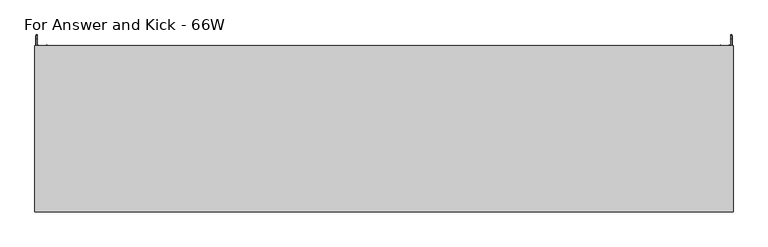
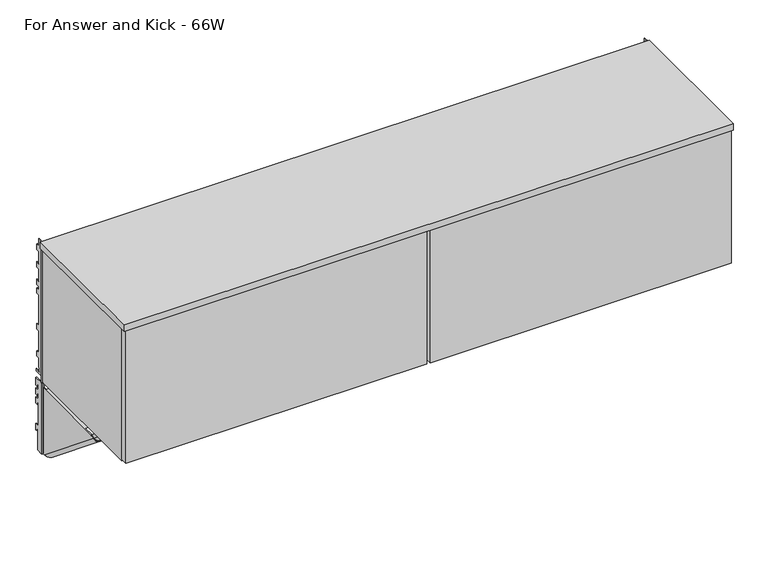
"""IFC4 building model written with IfcOpenShell, lengths in millimetres: furniture geometry, Steelcase - Universal Storage - In the Case Bin - Flat Front : For Answer and Kick - 66W."""

from ifc_helpers import new_model, si_unit, point, frame, frame_2d, origin, place, context, project, spatial, polyline, circle_curve, ellipse_curve, trimmed, segment, composite_curve, outline, extrude, faceted_brep, source, transform, mapped, element, save
from ifc_brep_helpers import plane_surface, cylinder_surface, revolved_surface, advanced_brep


def for_answer_and_kick_66w_c85725a8(model_context):
    return source(origin(), model_context, "Body", "SolidModel", [
        advanced_brep(
        [(4.0894, 24.9864881, 1247.9655), (4.0894, 1.1327479, 1247.9655), (4.0894, 1.1203386, 1040.9809), (4.0894, 17.3410881, 1040.9809), (4.0894, 17.3410881, 1101.1280822), (4.0894, 21.4050888, 1101.1280822), (4.0894, 21.4050888, 1094.7781064), (4.0894, 24.9864881, 1094.7781064), (4.0894, 24.9864881, 1113.0407271), (4.0894, 14.7756879, 1113.0407271), (4.0894, 14.7756879, 1179.6141345), (4.0894, 18.8396885, 1179.6141345), (4.0894, 18.8396885, 1173.264086), (4.0894, 24.9864881, 1173.264086), (4.0894, 24.9864881, 1191.5267068), (4.0894, 14.7756879, 1191.5267068), (4.0894, 14.7756879, 1205.7761277), (4.0894, 18.8396885, 1205.7761277), (4.0894, 18.8396885, 1199.4260793), (4.0894, 24.9864881, 1199.4260793), (4.0894, 24.9864881, 1217.6887), (4.0894, 14.7756879, 1217.6887), (4.0894, 14.7756879, 1231.9381209), (4.0894, 18.8396885, 1231.9381209), (4.0894, 18.8396885, 1225.5880725), (4.0894, 24.9864881, 1225.5880725), (2.1844, 24.9864881, 1247.9655), (2.1844, 24.9864881, 1225.5880725), (2.1844, 18.8396885, 1225.5880725), (2.1844, 18.8396885, 1231.9381209), (2.1844, 14.7756879, 1231.9381209), (2.1844, 14.7756879, 1217.6887), (2.1844, 24.9864881, 1217.6887), (2.1844, 24.9864881, 1199.4260793), (2.1844, 18.8396885, 1199.4260793), (2.1844, 18.8396885, 1205.7761277), (2.1844, 14.7756879, 1205.7761277), (2.1844, 14.7756879, 1191.5267068), (2.1844, 24.9864881, 1191.5267068), (2.1844, 24.9864881, 1173.264086), (2.1844, 18.8396885, 1173.264086), (2.1844, 18.8396885, 1179.6141345), (2.1844, 14.7756879, 1179.6141345), (2.1844, 14.7756879, 1113.0407271), (2.1844, 24.9864881, 1113.0407271), (2.1844, 24.9864881, 1094.7781064), (2.1844, 21.4050888, 1094.7781064), (2.1844, 21.4050888, 1101.1280822), (2.1844, 17.3410881, 1101.1280822), (2.1844, 17.3410881, 1040.9809), (2.1844, -0.7757522, 1040.9809), (2.1844, -0.7757522, 1247.9655), (4.4891598, -3.080512, 1247.9655), (8.1026, -3.080512, 1247.9655), (8.1026, -1.7838863, 1247.9655), (7.4942256, -1.175512, 1247.9655), (6.3852506, -1.175512, 1247.9655), (6.3852506, -1.175512, 1040.9809), (7.4942256, -1.175512, 1040.9809), (8.1026, -1.7838863, 1040.9809), (8.1026, -3.080512, 1040.9809), (4.4891598, -3.080512, 1040.9809)],
        [
            (0, 1),
            (1, 2),
            (2, 3),
            (3, 4),
            (4, 5),
            (5, 6),
            (6, 7),
            (7, 8),
            (8, 9),
            (9, 10),
            (10, 11),
            (11, 12),
            (12, 13),
            (13, 14),
            (14, 15),
            (15, 16),
            (16, 17),
            (17, 18),
            (18, 19),
            (19, 20),
            (20, 21),
            (21, 22),
            (22, 23),
            (23, 24),
            (24, 25),
            (25, 0),
            (26, 27),
            (27, 28),
            (28, 29),
            (29, 30),
            (30, 31),
            (31, 32),
            (32, 33),
            (33, 34),
            (34, 35),
            (35, 36),
            (36, 37),
            (37, 38),
            (38, 39),
            (39, 40),
            (40, 41),
            (41, 42),
            (42, 43),
            (43, 44),
            (44, 45),
            (45, 46),
            (46, 47),
            (47, 48),
            (48, 49),
            (49, 50),
            (50, 51),
            (51, 26),
            (0, 26),
            (51, 52, circle_curve(frame((4.4891598, -0.7757522, 1247.9655), z_axis=(0.0, 0.0, 1.0), x_axis=(1.0, 0.0, 0.0)), 2.3047598)),
            (52, 53),
            (53, 54),
            (54, 55, circle_curve(frame((7.4942256, -1.7838863, 1247.9655), z_axis=(0.0, 0.0, 1.0), x_axis=(1.0, 0.0, 0.0)), 0.6083744)),
            (55, 56),
            (56, 1, circle_curve(frame((6.3852506, 1.1203386, 1247.9655), z_axis=(0.0, 0.0, -1.0), x_axis=(1.0, 0.0, 0.0)), 2.2958506)),
            (2, 57, circle_curve(frame((6.3852506, 1.1203386, 1040.9809), z_axis=(0.0, 0.0, 1.0), x_axis=(1.0, 0.0, 0.0)), 2.2958506)),
            (57, 58),
            (58, 59, circle_curve(frame((7.4942256, -1.7838863, 1040.9809), z_axis=(0.0, 0.0, -1.0), x_axis=(1.0, 0.0, 0.0)), 0.6083744)),
            (59, 60),
            (60, 61),
            (61, 50, circle_curve(frame((4.4891598, -0.7757522, 1040.9809), z_axis=(0.0, 0.0, -1.0), x_axis=(1.0, 0.0, 0.0)), 2.3047598)),
            (49, 3),
            (48, 4),
            (47, 5),
            (46, 6),
            (45, 7),
            (44, 8),
            (43, 9),
            (42, 10),
            (41, 11),
            (40, 12),
            (39, 13),
            (38, 14),
            (37, 15),
            (36, 16),
            (35, 17),
            (34, 18),
            (33, 19),
            (32, 20),
            (31, 21),
            (30, 22),
            (29, 23),
            (28, 24),
            (27, 25),
            (61, 52),
            (60, 53),
            (59, 54),
            (58, 55),
            (57, 56),
        ],
        [
            plane_surface(frame((4.0894, 1.241405, 1247.9655), z_axis=(1.0, 0.0, 0.0), x_axis=(0.0, -1.0, 0.0))),
            plane_surface(frame((2.1844, 1.241405, 1247.9655), z_axis=(-1.0, 0.0, 0.0), x_axis=(0.0, 1.0, 0.0))),
            plane_surface(frame((4.0894, 24.9864881, 1247.9655), z_axis=(0.0, 0.0, 1.0), x_axis=(-1.0, 0.0, 0.0))),
            plane_surface(frame((4.0894, 1.1327479, 1040.9809), z_axis=(0.0, 0.0, -1.0), x_axis=(-1.0, 0.0, 0.0))),
            plane_surface(frame((4.0894, 17.3410881, 1040.9809), z_axis=(0.0, 1.0, 0.0), x_axis=(-1.0, 0.0, 0.0))),
            plane_surface(frame((4.0894, 17.3410881, 1101.1280822), z_axis=(0.0, 0.0, -1.0), x_axis=(-1.0, 0.0, 0.0))),
            plane_surface(frame((4.0894, 21.4050888, 1101.1280822), z_axis=(0.0, -1.0, 0.0), x_axis=(-1.0, 0.0, 0.0))),
            plane_surface(frame((4.0894, 21.4050888, 1094.7781064), z_axis=(0.0, 0.0, -1.0), x_axis=(-1.0, 0.0, 0.0))),
            plane_surface(frame((4.0894, 24.9864881, 1094.7781064), z_axis=(0.0, 1.0, 0.0), x_axis=(-1.0, 0.0, 0.0))),
            plane_surface(frame((4.0894, 24.9864881, 1113.0407271), z_axis=(0.0, 0.0, 1.0), x_axis=(-1.0, 0.0, 0.0))),
            plane_surface(frame((4.0894, 14.7756879, 1113.0407271), z_axis=(0.0, 1.0, 0.0), x_axis=(-1.0, 0.0, 0.0))),
            plane_surface(frame((4.0894, 14.7756879, 1179.6141345), z_axis=(0.0, 0.0, -1.0), x_axis=(-1.0, 0.0, 0.0))),
            plane_surface(frame((4.0894, 18.8396885, 1179.6141345), z_axis=(0.0, -1.0, 0.0), x_axis=(-1.0, 0.0, 0.0))),
            plane_surface(frame((4.0894, 18.8396885, 1173.264086), z_axis=(0.0, 0.0, -1.0), x_axis=(-1.0, 0.0, 0.0))),
            plane_surface(frame((4.0894, 24.9864881, 1173.264086), z_axis=(0.0, 1.0, 0.0), x_axis=(-1.0, 0.0, 0.0))),
            plane_surface(frame((4.0894, 24.9864881, 1191.5267068), z_axis=(0.0, 0.0, 1.0), x_axis=(-1.0, 0.0, 0.0))),
            plane_surface(frame((4.0894, 14.7756879, 1191.5267068), z_axis=(0.0, 1.0, 0.0), x_axis=(-1.0, 0.0, 0.0))),
            plane_surface(frame((4.0894, 14.7756879, 1205.7761277), z_axis=(0.0, 0.0, -1.0), x_axis=(-1.0, 0.0, 0.0))),
            plane_surface(frame((4.0894, 18.8396885, 1205.7761277), z_axis=(0.0, -1.0, 0.0), x_axis=(-1.0, 0.0, 0.0))),
            plane_surface(frame((4.0894, 18.8396885, 1199.4260793), z_axis=(0.0, 0.0, -1.0), x_axis=(-1.0, 0.0, 0.0))),
            plane_surface(frame((4.0894, 24.9864881, 1199.4260793), z_axis=(0.0, 1.0, 0.0), x_axis=(-1.0, 0.0, 0.0))),
            plane_surface(frame((4.0894, 24.9864881, 1217.6887), z_axis=(0.0, 0.0, 1.0), x_axis=(-1.0, 0.0, 0.0))),
            plane_surface(frame((4.0894, 14.7756879, 1217.6887), z_axis=(0.0, 1.0, 0.0), x_axis=(-1.0, 0.0, 0.0))),
            plane_surface(frame((4.0894, 14.7756879, 1231.9381209), z_axis=(0.0, 0.0, -1.0), x_axis=(-1.0, 0.0, 0.0))),
            plane_surface(frame((4.0894, 18.8396885, 1231.9381209), z_axis=(0.0, -1.0, 0.0), x_axis=(-1.0, 0.0, 0.0))),
            plane_surface(frame((4.0894, 18.8396885, 1225.5880725), z_axis=(0.0, 0.0, -1.0), x_axis=(-1.0, 0.0, 0.0))),
            plane_surface(frame((4.0894, 24.9864881, 1225.5880725), z_axis=(0.0, 1.0, 0.0), x_axis=(-1.0, 0.0, 0.0))),
            cylinder_surface(frame((4.4891598, -0.7757522, 1040.9809), z_axis=(0.0, 0.0, 1.0), x_axis=(1.0, 0.0, 0.0)), 2.3047598),
            plane_surface(frame((4.4891598, -3.080512, 1247.9655), z_axis=(0.0, -1.0, 0.0), x_axis=(0.0, 0.0, -1.0))),
            plane_surface(frame((8.1026, -3.080512, 1247.9655), z_axis=(1.0, 0.0, 0.0), x_axis=(0.0, 0.0, -1.0))),
            cylinder_surface(frame((7.4942256, -1.7838863, 1040.9809), z_axis=(0.0, 0.0, 1.0), x_axis=(1.0, 0.0, 0.0)), 0.6083744),
            plane_surface(frame((7.4942256, -1.175512, 1247.9655), z_axis=(0.0, 1.0, 0.0), x_axis=(0.0, 0.0, -1.0))),
            revolved_surface(polyline([(8.6811012, 1.1203386, 1040.9809), (8.6811012, 1.1203386, 1247.9655)]), (6.3852506, 1.1203386, 1040.9809), (0.0, 0.0, -1.0)),
        ],
        [
            (0, [[1, 2, 3, 4, 5, 6, 7, 8, 9, 10, 11, 12, 13, 14, 15, 16, 17, 18, 19, 20, 21, 22, 23, 24, 25, 26]]),
            (1, [[27, 28, 29, 30, 31, 32, 33, 34, 35, 36, 37, 38, 39, 40, 41, 42, 43, 44, 45, 46, 47, 48, 49, 50, 51, 52]]),
            (2, [[-1, 53, -52, 54, 55, 56, 57, 58, 59]]),
            (3, [[-3, 60, 61, 62, 63, 64, 65, -50, 66]]),
            (4, [[-4, -66, -49, 67]]),
            (5, [[-5, -67, -48, 68]]),
            (6, [[-6, -68, -47, 69]]),
            (7, [[-7, -69, -46, 70]]),
            (8, [[-8, -70, -45, 71]]),
            (9, [[-9, -71, -44, 72]]),
            (10, [[-10, -72, -43, 73]]),
            (11, [[-11, -73, -42, 74]]),
            (12, [[-12, -74, -41, 75]]),
            (13, [[-13, -75, -40, 76]]),
            (14, [[-14, -76, -39, 77]]),
            (15, [[-15, -77, -38, 78]]),
            (16, [[-16, -78, -37, 79]]),
            (17, [[-17, -79, -36, 80]]),
            (18, [[-18, -80, -35, 81]]),
            (19, [[-19, -81, -34, 82]]),
            (20, [[-20, -82, -33, 83]]),
            (21, [[-21, -83, -32, 84]]),
            (22, [[-22, -84, -31, 85]]),
            (23, [[-23, -85, -30, 86]]),
            (24, [[-24, -86, -29, 87]]),
            (25, [[-25, -87, -28, 88]]),
            (26, [[-26, -88, -27, -53]]),
            (27, [[-54, -51, -65, 89]]),
            (28, [[-55, -89, -64, 90]]),
            (29, [[-56, -90, -63, 91]]),
            (30, [[-57, -91, -62, 92]]),
            (31, [[-58, -92, -61, 93]]),
            (32, [[-59, -93, -60, -2]]),
        ],
    ),
        advanced_brep(
        [(1672.3106, 24.9864881, 1247.9655), (1672.3106, 24.9864881, 1225.5880725), (1672.3106, 18.8396885, 1225.5880725), (1672.3106, 18.8396885, 1231.9381209), (1672.3106, 14.7756879, 1231.9381209), (1672.3106, 14.7756879, 1217.6887), (1672.3106, 24.9864881, 1217.6887), (1672.3106, 24.9864881, 1199.4260793), (1672.3106, 18.8396885, 1199.4260793), (1672.3106, 18.8396885, 1205.7761277), (1672.3106, 14.7756879, 1205.7761277), (1672.3106, 14.7756879, 1191.5267068), (1672.3106, 24.9864881, 1191.5267068), (1672.3106, 24.9864881, 1173.264086), (1672.3106, 18.8396885, 1173.264086), (1672.3106, 18.8396885, 1179.6141345), (1672.3106, 14.7756879, 1179.6141345), (1672.3106, 14.7756879, 1113.0407271), (1672.3106, 24.9864881, 1113.0407271), (1672.3106, 24.9864881, 1094.7781064), (1672.3106, 21.4050888, 1094.7781064), (1672.3106, 21.4050888, 1101.1280822), (1672.3106, 17.3410881, 1101.1280822), (1672.3106, 17.3410881, 1040.9809), (1672.3106, 1.1327479, 1040.9809), (1672.3106, 1.1203386, 1247.9655), (1674.2156, -0.7757522, 1247.9655), (1674.2156, -0.7757522, 1040.9809), (1674.2156, 17.3410881, 1040.9809), (1674.2156, 17.3410881, 1101.1280822), (1674.2156, 21.4050888, 1101.1280822), (1674.2156, 21.4050888, 1094.7781064), (1674.2156, 24.9864881, 1094.7781064), (1674.2156, 24.9864881, 1113.0407271), (1674.2156, 14.7756879, 1113.0407271), (1674.2156, 14.7756879, 1179.6141345), (1674.2156, 18.8396885, 1179.6141345), (1674.2156, 18.8396885, 1173.264086), (1674.2156, 24.9864881, 1173.264086), (1674.2156, 24.9864881, 1191.5267068), (1674.2156, 14.7756879, 1191.5267068), (1674.2156, 14.7756879, 1205.7761277), (1674.2156, 18.8396885, 1205.7761277), (1674.2156, 18.8396885, 1199.4260793), (1674.2156, 24.9864881, 1199.4260793), (1674.2156, 24.9864881, 1217.6887), (1674.2156, 14.7756879, 1217.6887), (1674.2156, 14.7756879, 1231.9381209), (1674.2156, 18.8396885, 1231.9381209), (1674.2156, 18.8396885, 1225.5880725), (1674.2156, 24.9864881, 1225.5880725), (1674.2156, 24.9864881, 1247.9655), (1671.9108402, -3.080512, 1040.9809), (1668.5006, -3.080512, 1040.9809), (1668.5006, -1.7838863, 1040.9809), (1669.1089744, -1.175512, 1040.9809), (1670.0147494, -1.175512, 1040.9809), (1670.0147494, -1.175512, 1247.9655), (1669.1089744, -1.175512, 1247.9655), (1668.5006, -1.7838863, 1247.9655), (1668.5006, -3.080512, 1247.9655), (1671.9108402, -3.080512, 1247.9655)],
        [
            (0, 1),
            (1, 2),
            (2, 3),
            (3, 4),
            (4, 5),
            (5, 6),
            (6, 7),
            (7, 8),
            (8, 9),
            (9, 10),
            (10, 11),
            (11, 12),
            (12, 13),
            (13, 14),
            (14, 15),
            (15, 16),
            (16, 17),
            (17, 18),
            (18, 19),
            (19, 20),
            (20, 21),
            (21, 22),
            (22, 23),
            (23, 24),
            (24, 25),
            (25, 0),
            (26, 27),
            (27, 28),
            (28, 29),
            (29, 30),
            (30, 31),
            (31, 32),
            (32, 33),
            (33, 34),
            (34, 35),
            (35, 36),
            (36, 37),
            (37, 38),
            (38, 39),
            (39, 40),
            (40, 41),
            (41, 42),
            (42, 43),
            (43, 44),
            (44, 45),
            (45, 46),
            (46, 47),
            (47, 48),
            (48, 49),
            (49, 50),
            (50, 51),
            (51, 26),
            (0, 51),
            (50, 1),
            (49, 2),
            (48, 3),
            (47, 4),
            (46, 5),
            (45, 6),
            (44, 7),
            (43, 8),
            (42, 9),
            (41, 10),
            (40, 11),
            (39, 12),
            (38, 13),
            (37, 14),
            (36, 15),
            (35, 16),
            (34, 17),
            (33, 18),
            (32, 19),
            (31, 20),
            (30, 21),
            (29, 22),
            (28, 23),
            (27, 52, circle_curve(frame((1671.9108402, -0.7757522, 1040.9809), z_axis=(0.0, 0.0, -1.0), x_axis=(0.0, 1.0, 0.0)), 2.3047598)),
            (52, 53),
            (53, 54),
            (54, 55, circle_curve(frame((1669.1089744, -1.7838863, 1040.9809), z_axis=(0.0, 0.0, -1.0), x_axis=(0.0, 1.0, 0.0)), 0.6083744)),
            (55, 56),
            (56, 24, circle_curve(frame((1670.0147494, 1.1203386, 1040.9809), z_axis=(0.0, 0.0, 1.0), x_axis=(0.0, 1.0, 0.0)), 2.2958506)),
            (25, 57, circle_curve(frame((1670.0147494, 1.1203386, 1247.9655), z_axis=(0.0, 0.0, -1.0), x_axis=(0.0, 1.0, 0.0)), 2.2958506)),
            (57, 58),
            (58, 59, circle_curve(frame((1669.1089744, -1.7838863, 1247.9655), z_axis=(0.0, 0.0, 1.0), x_axis=(0.0, 1.0, 0.0)), 0.6083744)),
            (59, 60),
            (60, 61),
            (61, 26, circle_curve(frame((1671.9108402, -0.7757522, 1247.9655), z_axis=(0.0, 0.0, 1.0), x_axis=(0.0, 1.0, 0.0)), 2.3047598)),
            (56, 57),
            (55, 58),
            (54, 59),
            (53, 60),
            (52, 61),
        ],
        [
            plane_surface(frame((1672.3106, 24.9864881, 1247.9655), z_axis=(-1.0, 0.0, 0.0), x_axis=(0.0, 0.0, -1.0))),
            plane_surface(frame((1674.2156, 24.9864881, 1247.9655), z_axis=(1.0, 0.0, 0.0), x_axis=(0.0, 0.0, 1.0))),
            plane_surface(frame((1672.3106, 24.9864881, 1247.9655), z_axis=(0.0, 1.0, 0.0), x_axis=(1.0, 0.0, 0.0))),
            plane_surface(frame((1672.3106, 24.9864881, 1225.5880725), z_axis=(0.0, 0.0, -1.0), x_axis=(1.0, 0.0, 0.0))),
            plane_surface(frame((1672.3106, 18.8396885, 1225.5880725), z_axis=(0.0, -1.0, 0.0), x_axis=(1.0, 0.0, 0.0))),
            plane_surface(frame((1672.3106, 18.8396885, 1231.9381209), z_axis=(0.0, 0.0, -1.0), x_axis=(1.0, 0.0, 0.0))),
            plane_surface(frame((1672.3106, 14.7756879, 1231.9381209), z_axis=(0.0, 1.0, 0.0), x_axis=(1.0, 0.0, 0.0))),
            plane_surface(frame((1672.3106, 14.7756879, 1217.6887), z_axis=(0.0, 0.0, 1.0), x_axis=(1.0, 0.0, 0.0))),
            plane_surface(frame((1672.3106, 24.9864881, 1217.6887), z_axis=(0.0, 1.0, 0.0), x_axis=(1.0, 0.0, 0.0))),
            plane_surface(frame((1672.3106, 24.9864881, 1199.4260793), z_axis=(0.0, 0.0, -1.0), x_axis=(1.0, 0.0, 0.0))),
            plane_surface(frame((1672.3106, 18.8396885, 1199.4260793), z_axis=(0.0, -1.0, 0.0), x_axis=(1.0, 0.0, 0.0))),
            plane_surface(frame((1672.3106, 18.8396885, 1205.7761277), z_axis=(0.0, 0.0, -1.0), x_axis=(1.0, 0.0, 0.0))),
            plane_surface(frame((1672.3106, 14.7756879, 1205.7761277), z_axis=(0.0, 1.0, 0.0), x_axis=(1.0, 0.0, 0.0))),
            plane_surface(frame((1672.3106, 14.7756879, 1191.5267068), z_axis=(0.0, 0.0, 1.0), x_axis=(1.0, 0.0, 0.0))),
            plane_surface(frame((1672.3106, 24.9864881, 1191.5267068), z_axis=(0.0, 1.0, 0.0), x_axis=(1.0, 0.0, 0.0))),
            plane_surface(frame((1672.3106, 24.9864881, 1173.264086), z_axis=(0.0, 0.0, -1.0), x_axis=(1.0, 0.0, 0.0))),
            plane_surface(frame((1672.3106, 18.8396885, 1173.264086), z_axis=(0.0, -1.0, 0.0), x_axis=(1.0, 0.0, 0.0))),
            plane_surface(frame((1672.3106, 18.8396885, 1179.6141345), z_axis=(0.0, 0.0, -1.0), x_axis=(1.0, 0.0, 0.0))),
            plane_surface(frame((1672.3106, 14.7756879, 1179.6141345), z_axis=(0.0, 1.0, 0.0), x_axis=(1.0, 0.0, 0.0))),
            plane_surface(frame((1672.3106, 14.7756879, 1113.0407271), z_axis=(0.0, 0.0, 1.0), x_axis=(1.0, 0.0, 0.0))),
            plane_surface(frame((1672.3106, 24.9864881, 1113.0407271), z_axis=(0.0, 1.0, 0.0), x_axis=(1.0, 0.0, 0.0))),
            plane_surface(frame((1672.3106, 24.9864881, 1094.7781064), z_axis=(0.0, 0.0, -1.0), x_axis=(1.0, 0.0, 0.0))),
            plane_surface(frame((1672.3106, 21.4050888, 1094.7781064), z_axis=(0.0, -1.0, 0.0), x_axis=(1.0, 0.0, 0.0))),
            plane_surface(frame((1672.3106, 21.4050888, 1101.1280822), z_axis=(0.0, 0.0, -1.0), x_axis=(1.0, 0.0, 0.0))),
            plane_surface(frame((1672.3106, 17.3410881, 1101.1280822), z_axis=(0.0, 1.0, 0.0), x_axis=(1.0, 0.0, 0.0))),
            plane_surface(frame((1672.3106, 17.3410881, 1040.9809), z_axis=(0.0, 0.0, -1.0), x_axis=(1.0, 0.0, 0.0))),
            plane_surface(frame((1672.3106, 1.1327479, 1247.9655), z_axis=(0.0, 0.0, 1.0), x_axis=(1.0, 0.0, 0.0))),
            revolved_surface(polyline([(1670.0147494, 3.4161892, 1040.9809), (1670.0147494, 3.4161892, 1247.9655)]), (1670.0147494, 1.1203386, 1040.9809), (0.0, 0.0, -1.0)),
            plane_surface(frame((1670.0147494, -1.175512, 1247.9655), z_axis=(3.837466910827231e-11, 1.0, 0.0), x_axis=(0.0, 0.0, -1.0))),
            cylinder_surface(frame((1669.1089744, -1.7838863, 1040.9809), z_axis=(0.0, 0.0, 1.0), x_axis=(0.0, 1.0, 0.0)), 0.6083744),
            plane_surface(frame((1668.5006, -1.7838863, 1247.9655), z_axis=(-1.0, 0.0, 0.0), x_axis=(0.0, 0.0, -1.0))),
            plane_surface(frame((1668.5006, -3.080512, 1247.9655), z_axis=(6.4185895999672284e-12, -1.0, 0.0), x_axis=(0.0, 0.0, -1.0))),
            cylinder_surface(frame((1671.9108402, -0.7757522, 1040.9809), z_axis=(0.0, 0.0, 1.0), x_axis=(0.0, 1.0, 0.0)), 2.3047598),
        ],
        [
            (0, [[1, 2, 3, 4, 5, 6, 7, 8, 9, 10, 11, 12, 13, 14, 15, 16, 17, 18, 19, 20, 21, 22, 23, 24, 25, 26]]),
            (1, [[27, 28, 29, 30, 31, 32, 33, 34, 35, 36, 37, 38, 39, 40, 41, 42, 43, 44, 45, 46, 47, 48, 49, 50, 51, 52]]),
            (2, [[-1, 53, -51, 54]]),
            (3, [[-2, -54, -50, 55]]),
            (4, [[-3, -55, -49, 56]]),
            (5, [[-4, -56, -48, 57]]),
            (6, [[-5, -57, -47, 58]]),
            (7, [[-6, -58, -46, 59]]),
            (8, [[-7, -59, -45, 60]]),
            (9, [[-8, -60, -44, 61]]),
            (10, [[-9, -61, -43, 62]]),
            (11, [[-10, -62, -42, 63]]),
            (12, [[-11, -63, -41, 64]]),
            (13, [[-12, -64, -40, 65]]),
            (14, [[-13, -65, -39, 66]]),
            (15, [[-14, -66, -38, 67]]),
            (16, [[-15, -67, -37, 68]]),
            (17, [[-16, -68, -36, 69]]),
            (18, [[-17, -69, -35, 70]]),
            (19, [[-18, -70, -34, 71]]),
            (20, [[-19, -71, -33, 72]]),
            (21, [[-20, -72, -32, 73]]),
            (22, [[-21, -73, -31, 74]]),
            (23, [[-22, -74, -30, 75]]),
            (24, [[-23, -75, -29, 76]]),
            (25, [[-24, -76, -28, 77, 78, 79, 80, 81, 82]]),
            (26, [[-26, 83, 84, 85, 86, 87, 88, -52, -53]]),
            (27, [[-83, -25, -82, 89]]),
            (28, [[-84, -89, -81, 90]]),
            (29, [[-85, -90, -80, 91]]),
            (30, [[-86, -91, -79, 92]]),
            (31, [[-87, -92, -78, 93]]),
            (32, [[-88, -93, -77, -27]]),
        ],
    ),
        advanced_brep(
        [(1647.3424, -230.0833372, 1233.8431), (1647.3424, 1.1327479, 1046.6079738), (1645.2342, 1.1327479, 1046.6079738), (1645.2342, -230.0833372, 1233.8431), (1645.2342, 1.1327479, 1040.9809), (1645.2342, -7.7654502, 1040.9809), (1645.2342, -240.6555763, 1229.5716381), (1668.5006, -7.7654502, 1040.9809), (1668.5006, -240.6555763, 1229.5716381), (1668.5006, 1.1327479, 1040.9809), (1668.5006, 1.1327479, 1046.6079738), (1668.5006, -3.080512, 1050.019805), (1668.5006, -3.080512, 1233.8431), (1668.5006, -230.0833372, 1233.8431), (1666.3924009, 1.1327479, 1046.6079738), (1666.3924009, -3.080512, 1050.019805), (1666.3924009, -7.7654502, 1040.9809), (1666.3924009, -240.6555763, 1229.5716381), (1666.3924009, -230.0833372, 1233.8431), (1666.3924009, -200.311512, 1233.8431), (1666.3924009, -200.311512, 1233.0049163), (1666.3924009, -14.0787123, 1233.0049163), (1666.3924009, -14.0787123, 1233.8431), (1666.3924009, -3.080512, 1233.8431), (1666.3924009, 1.1327479, 1040.9809), (1647.3424, -7.7654502, 1040.9809), (1647.3424, -240.6555763, 1229.5716381), (1647.3424, 1.1327479, 1040.9809), (1637.4617978, -200.311512, 1233.8431), (1637.4617978, -200.311512, 1252.2581016), (1636.6236, -200.311512, 1252.2581016), (1636.6236, -200.311512, 1233.0049163), (1636.6236, -82.5825138, 1252.2581016), (1637.4617978, -82.5825138, 1252.2581016), (1637.4617978, -82.5825138, 1233.8431), (1636.6236, -82.5825138, 1233.8431), (1636.6236, -14.0787123, 1233.8431), (1636.6236, -14.0787123, 1233.0049163)],
        [
            (0, 1),
            (1, 2),
            (2, 3),
            (3, 0),
            (2, 4),
            (4, 5),
            (5, 6),
            (6, 3),
            (5, 7, ellipse_curve(frame((1656.8674, -7.7654502, 1040.9809), z_axis=(0.0, 0.0, 1.0), x_axis=(0.0, -1.0, 0.0)), 18.4853359, 11.6332)),
            (7, 8),
            (8, 6, ellipse_curve(frame((1656.8674, -240.6555763, 1229.5716381), z_axis=(0.0, 0.374606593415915, -0.9271838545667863), x_axis=(0.0, -0.9271838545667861, -0.3746065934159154)), 13.3008659, 11.6332)),
            (7, 9),
            (9, 10),
            (10, 11),
            (11, 12),
            (12, 13),
            (13, 8),
            (10, 14),
            (14, 15),
            (15, 11),
            (16, 17),
            (17, 18),
            (18, 19),
            (19, 20),
            (20, 21),
            (21, 22),
            (22, 23),
            (23, 15),
            (14, 24),
            (24, 16),
            (16, 25, ellipse_curve(frame((1656.8674005, -7.7654502, 1040.9809), z_axis=(0.0, 0.0, -1.0), x_axis=(0.0, 1.0, 0.0)), 15.135374, 9.5250005)),
            (25, 26),
            (26, 17, ellipse_curve(frame((1656.8674005, -240.6555763, 1229.5716381), z_axis=(0.0, -0.374606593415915, 0.9271838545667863), x_axis=(0.0, 0.9271838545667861, 0.3746065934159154)), 10.8904475, 9.5250005)),
            (0, 26),
            (25, 27),
            (27, 1),
            (13, 18),
            (24, 9),
            (4, 27),
            (28, 29),
            (29, 30),
            (30, 31),
            (31, 20),
            (19, 28),
            (32, 33),
            (33, 34),
            (34, 35),
            (35, 32),
            (35, 36),
            (36, 37),
            (37, 31),
            (30, 32),
            (28, 34),
            (33, 29),
            (36, 22),
            (21, 37),
            (12, 23),
        ],
        [
            plane_surface(frame((1647.3424, -241.2702093, 1242.902052), z_axis=(0.0, 0.6293204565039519, 0.7771459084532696), x_axis=(0.0, 0.7771459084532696, -0.6293204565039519))),
            plane_surface(frame((1645.2342, -241.2702093, 1242.902052), z_axis=(-1.0, 0.0, -1.0336974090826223e-12), x_axis=(0.0, 0.7771459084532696, -0.6293204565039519))),
            cylinder_surface(frame((1656.8674, 5.728998, 1030.0533094), z_axis=(0.0, -0.7771459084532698, 0.6293204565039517), x_axis=(0.0, 0.6293204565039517, 0.7771459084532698)), 11.6332),
            plane_surface(frame((1668.5006, -247.5463438, 1235.1516726), z_axis=(1.0, 0.0, 0.0), x_axis=(0.0, 0.7771459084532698, -0.6293204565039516))),
            plane_surface(frame((1668.5006, -241.2702093, 1242.902052), z_axis=(0.0, 0.6293204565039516, 0.7771459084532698), x_axis=(0.0, 0.7771459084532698, -0.6293204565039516))),
            plane_surface(frame((1666.3924009, -241.2702093, 1242.902052), z_axis=(-1.0, 0.0, 0.0), x_axis=(0.0, 0.7771459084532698, -0.6293204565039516))),
            revolved_surface(polyline([(1656.8674005, 7.3699238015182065, 1040.980900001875), (1656.8674005, -238.76446812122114, 1240.2966349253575)]), (1656.8674005, 5.728998, 1030.0533094), (0.0, 0.7771459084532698, -0.6293204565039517)),
            plane_surface(frame((1647.3424, -247.5463438, 1235.1516726), z_axis=(1.0, 0.0, 0.0), x_axis=(0.0, 0.7771459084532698, -0.6293204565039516))),
            plane_surface(frame((1676.4, -257.2236519, 1222.8777011), z_axis=(0.0, -0.374606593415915, 0.9271838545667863), x_axis=(-1.0, 0.0, 0.0))),
            plane_surface(frame((1676.4, 1.1327479, 1040.9809), z_axis=(0.0, 0.0, -1.0), x_axis=(-1.0, 0.0, 0.0))),
            plane_surface(frame((1676.4, 1.1327479, 1053.6809), z_axis=(0.0, 1.0, 0.0), x_axis=(-1.0, 0.0, 0.0))),
            plane_surface(frame((1636.6236, -200.311512, 1252.2581016), z_axis=(0.0, -1.0, 0.0), x_axis=(0.0, 0.0, -1.0))),
            plane_surface(frame((1636.6236, -82.5825138, 1252.2581016), z_axis=(0.0, 1.0, 0.0), x_axis=(0.0, 0.0, 1.0))),
            plane_surface(frame((1636.6236, -200.311512, 1252.2581016), z_axis=(-1.0, 0.0, 0.0), x_axis=(0.0, 1.0, 0.0))),
            plane_surface(frame((1637.4617978, -200.311512, 1233.8431), z_axis=(1.0, 0.0, 0.0), x_axis=(0.0, 1.0, 0.0))),
            plane_surface(frame((1637.4617978, -200.311512, 1252.2581016), z_axis=(0.0, 0.0, 1.0), x_axis=(0.0, 1.0, 0.0))),
            plane_surface(frame((1636.6236, -14.0787123, 1233.8431), z_axis=(0.0, 1.0, 0.0), x_axis=(0.0, 0.0, 1.0))),
            plane_surface(frame((1636.6236, -200.311512, 1233.0049163), z_axis=(0.0, 0.0, -1.0), x_axis=(0.0, 1.0, 0.0))),
            plane_surface(frame((1668.5006, -200.311512, 1233.8431), z_axis=(0.0, 0.0, 1.0), x_axis=(0.0, 1.0, 0.0))),
            plane_surface(frame((1668.5006, -3.080512, 1050.019805), z_axis=(0.0, 1.0, 0.0), x_axis=(-1.0, 0.0, 0.0))),
        ],
        [
            (0, [[1, 2, 3, 4]]),
            (1, [[-3, 5, 6, 7, 8]]),
            (2, [[-7, 9, 10, 11]]),
            (3, [[-10, 12, 13, 14, 15, 16, 17]]),
            (4, [[18, 19, 20, -14]]),
            (5, [[21, 22, 23, 24, 25, 26, 27, 28, -19, 29, 30]]),
            (6, [[-21, 31, 32, 33]]),
            (7, [[-1, 34, -32, 35, 36]]),
            (8, [[-4, -8, -11, -17, 37, -22, -33, -34]]),
            (9, [[38, -12, -9, -6, 39, -35, -31, -30]]),
            (10, [[-38, -29, -18, -13]]),
            (10, [[-39, -5, -2, -36]]),
            (11, [[40, 41, 42, 43, -24, 44]]),
            (12, [[45, 46, 47, 48]]),
            (13, [[-48, 49, 50, 51, -42, 52]]),
            (14, [[-40, 53, -46, 54]]),
            (15, [[-41, -54, -45, -52]]),
            (16, [[-50, 55, -26, 56]]),
            (17, [[-51, -56, -25, -43]]),
            (18, [[57, -27, -55, -49, -47, -53, -44, -23, -37, -16]]),
            (19, [[-15, -20, -28, -57]]),
        ],
    ),
        advanced_brep(
        [(8.1026, -3.080512, 1050.019805), (8.1026, -3.080512, 1233.8431), (8.1026, -14.0787123, 1233.8431), (8.1026, -14.0787123, 1233.0049163), (8.1026, -200.311512, 1233.0049163), (8.1026, -200.311512, 1233.8431), (8.1026, -230.0833372, 1233.8431), (8.1026, -240.6555763, 1229.5716381), (8.1026, -7.7654502, 1040.9809), (8.1026, 1.1327479, 1040.9809), (8.1026, 1.1327479, 1046.6079738), (5.9944, -3.080512, 1233.8431), (5.9944, -3.080512, 1050.019805), (5.9944, 1.1327479, 1046.6079738), (5.9944, 1.1327479, 1040.9809), (5.9944, -7.7654502, 1040.9809), (5.9944, -240.6555763, 1229.5716381), (5.9944, -230.0833372, 1233.8431), (39.5732022, -200.311512, 1233.8431), (39.5732022, -82.5825138, 1233.8431), (40.4114, -82.5825138, 1233.8431), (40.4114, -14.0787123, 1233.8431), (29.2608, -7.7654502, 1040.9809), (29.2608, -240.6555763, 1229.5716381), (29.2608, 1.1327479, 1040.9809), (29.2608, 1.1327479, 1046.6079738), (29.2608, -230.0833372, 1233.8431), (27.1526009, 1.1327479, 1046.6079738), (27.1526009, -230.0833372, 1233.8431), (27.1526009, 1.1327479, 1040.9809), (27.1526009, -7.7654502, 1040.9809), (27.1526009, -240.6555763, 1229.5716381), (40.4114, -200.311512, 1233.0049163), (40.4114, -200.311512, 1252.2581016), (39.5732022, -200.311512, 1252.2581016), (40.4114, -14.0787123, 1233.0049163), (40.4114, -82.5825138, 1252.2581016), (39.5732022, -82.5825138, 1252.2581016)],
        [
            (0, 1),
            (1, 2),
            (2, 3),
            (3, 4),
            (4, 5),
            (5, 6),
            (6, 7),
            (7, 8),
            (8, 9),
            (9, 10),
            (10, 0),
            (11, 12),
            (12, 13),
            (13, 14),
            (14, 15),
            (15, 16),
            (16, 17),
            (17, 11),
            (17, 6),
            (5, 18),
            (18, 19),
            (19, 20),
            (20, 21),
            (21, 2),
            (1, 11),
            (0, 12),
            (10, 13),
            (15, 22, ellipse_curve(frame((17.6276, -7.7654502, 1040.9809), z_axis=(0.0, 0.0, 1.0), x_axis=(0.0, -1.0, 0.0)), 18.4853359, 11.6332)),
            (22, 23),
            (23, 16, ellipse_curve(frame((17.6276, -240.6555763, 1229.5716381), z_axis=(0.0, 0.374606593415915, -0.9271838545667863), x_axis=(0.0, -0.9271838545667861, -0.3746065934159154)), 13.3008659, 11.6332)),
            (22, 24),
            (24, 25),
            (25, 26),
            (26, 23),
            (25, 27),
            (27, 28),
            (28, 26),
            (27, 29),
            (29, 30),
            (30, 31),
            (31, 28),
            (7, 31, ellipse_curve(frame((17.6276005, -240.6555763, 1229.5716381), z_axis=(0.0, -0.374606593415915, 0.9271838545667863), x_axis=(0.0, 0.9271838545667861, 0.3746065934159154)), 10.8904475, 9.5250005)),
            (30, 8, ellipse_curve(frame((17.6276005, -7.7654502, 1040.9809), z_axis=(0.0, 0.0, -1.0), x_axis=(0.0, 1.0, 0.0)), 15.135374, 9.5250005)),
            (14, 9),
            (29, 24),
            (4, 32),
            (32, 33),
            (33, 34),
            (34, 18),
            (21, 35),
            (35, 3),
            (35, 32),
            (20, 36),
            (36, 33),
            (19, 37),
            (37, 36),
            (37, 34),
        ],
        [
            plane_surface(frame((8.1026, -230.0833372, 1233.8431), z_axis=(1.0, 0.0, 0.0), x_axis=(0.0, -1.0, 0.0))),
            plane_surface(frame((5.9944, -230.0833372, 1233.8431), z_axis=(-1.0, 0.0, 0.0), x_axis=(0.0, 1.0, 0.0))),
            plane_surface(frame((8.1026, -3.080512, 1233.8431), z_axis=(0.0, 0.0, 1.0), x_axis=(-1.0, 0.0, 0.0))),
            plane_surface(frame((8.1026, -3.080512, 1050.019805), z_axis=(0.0, 1.0, 0.0), x_axis=(-1.0, 0.0, 0.0))),
            plane_surface(frame((8.1026, -241.2702093, 1242.902052), z_axis=(0.0, 0.6293204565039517, 0.7771459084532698), x_axis=(0.0, 0.7771459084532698, -0.6293204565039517))),
            cylinder_surface(frame((17.6276, 5.728998, 1030.0533094), z_axis=(0.0, -0.7771459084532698, 0.6293204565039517), x_axis=(1.0, 0.0, 0.0)), 11.6332),
            plane_surface(frame((29.2608, -247.5463438, 1235.1516726), z_axis=(1.0000000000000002, 0.0, 0.0), x_axis=(0.0, 0.7771459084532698, -0.6293204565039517))),
            plane_surface(frame((29.2608, -241.2702093, 1242.902052), z_axis=(0.0, 0.6293204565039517, 0.7771459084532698), x_axis=(0.0, 0.7771459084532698, -0.6293204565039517))),
            plane_surface(frame((27.1526009, -241.2702093, 1242.902052), z_axis=(-1.0000000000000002, 0.0, 0.0), x_axis=(0.0, 0.7771459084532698, -0.6293204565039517))),
            revolved_surface(polyline([(27.152601, 1.375646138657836, 1033.5785848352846), (27.152601, -244.75874578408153, 1232.8943197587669)]), (17.6276005, 5.728998, 1030.0533094), (0.0, 0.7771459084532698, -0.6293204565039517)),
            plane_surface(frame((1676.4, -257.2236519, 1222.8777011), z_axis=(0.0, -0.374606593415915, 0.9271838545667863), x_axis=(-1.0, 0.0, 0.0))),
            plane_surface(frame((1676.4, 1.1327479, 1040.9809), z_axis=(0.0, 0.0, -1.0), x_axis=(-1.0, 0.0, 0.0))),
            plane_surface(frame((1676.4, 1.1327479, 1053.6809), z_axis=(0.0, 1.0, 0.0), x_axis=(-1.0, 0.0, 0.0))),
            plane_surface(frame((10.5986151, -200.311512, 1233.8431), z_axis=(0.0, -1.0, 0.0), x_axis=(-1.0, 0.0, 0.0))),
            plane_surface(frame((10.5986151, -14.0787123, 1233.8431), z_axis=(0.0, 1.0, 0.0), x_axis=(1.0, 0.0, 0.0))),
            plane_surface(frame((8.1026, -200.311512, 1233.0049163), z_axis=(0.0, 0.0, -1.0), x_axis=(0.0, 1.0, 0.0))),
            plane_surface(frame((40.4114, -200.311512, 1233.0049163), z_axis=(1.0, 0.0, 0.0), x_axis=(0.0, 1.0, 0.0))),
            plane_surface(frame((38.1509305, -82.5825138, 1252.2581016), z_axis=(0.0, 1.0, 0.0), x_axis=(1.0, 0.0, 0.0))),
            plane_surface(frame((40.4114, -200.311512, 1252.2581016), z_axis=(0.0, 0.0, 1.0), x_axis=(0.0, 1.0, 0.0))),
            plane_surface(frame((39.5732022, -200.311512, 1252.2581016), z_axis=(-1.0, 0.0, 0.0), x_axis=(0.0, 1.0, 0.0))),
        ],
        [
            (0, [[1, 2, 3, 4, 5, 6, 7, 8, 9, 10, 11]]),
            (1, [[12, 13, 14, 15, 16, 17, 18]]),
            (2, [[-18, 19, -6, 20, 21, 22, 23, 24, -2, 25]]),
            (3, [[-1, 26, -12, -25]]),
            (4, [[-26, -11, 27, -13]]),
            (5, [[-16, 28, 29, 30]]),
            (6, [[-29, 31, 32, 33, 34]]),
            (7, [[-33, 35, 36, 37]]),
            (8, [[-36, 38, 39, 40, 41]]),
            (9, [[-8, 42, -40, 43]]),
            (10, [[-7, -19, -17, -30, -34, -37, -41, -42]]),
            (11, [[44, -9, -43, -39, 45, -31, -28, -15]]),
            (12, [[-44, -14, -27, -10]]),
            (12, [[-45, -38, -35, -32]]),
            (13, [[46, 47, 48, 49, -20, -5]]),
            (14, [[50, 51, -3, -24]]),
            (15, [[-46, -4, -51, 52]]),
            (16, [[-47, -52, -50, -23, 53, 54]]),
            (17, [[-53, -22, 55, 56]]),
            (18, [[-48, -54, -56, 57]]),
            (19, [[-49, -57, -55, -21]]),
        ],
    ),
        faceted_brep([(1657.4516023, -9.7789998, 1640.3955), (1657.4516023, -9.7789998, 1652.2572326), (1657.4516023, -10.6172003, 1652.2572326), (1657.4516023, -10.6172003, 1639.557281), (1657.4516023, -0.8382, 1639.557281), (1657.4516023, -0.8382266, 1640.3955), (17.0434001, -9.7789998, 1640.3955), (17.0434001, -0.8382, 1640.3955), (17.0434001, -0.8382011, 1639.557281), (17.0434001, -10.6172003, 1639.557281), (17.0434001, -10.6172003, 1652.2572326), (17.0434001, -9.7789998, 1652.2572326), (1660.0837557, -30.9238769, 1640.3955), (1660.9187599, -30.850824, 1640.3955), (1658.2930117, -0.8382, 1640.3955), (1672.3106, -0.8382, 1640.3955), (1672.3106, 0.1784978, 1640.3955), (2.1844, 0.1784978, 1640.3955), (2.1844, -0.8382, 1640.3955), (16.2019988, -0.8382, 1640.3955), (13.5762335, -30.850824, 1640.3955), (14.4176356, -30.850824, 1640.3955), (1672.3106, 0.1784978, 1247.9655), (1672.3106, -0.8382, 1247.9655), (1658.2930117, -0.8382, 1247.9655), (1660.9187599, -30.850824, 1247.9655), (1660.0837557, -30.9238769, 1247.9655), (1657.4516, -0.8382, 1247.9655), (17.0434002, -0.8382, 1247.9655), (14.4176356, -30.850824, 1247.9655), (13.5762335, -30.850824, 1247.9655), (16.2019988, -0.8382, 1247.9655), (2.1844, -0.8382, 1247.9655), (2.1844, 0.1784978, 1247.9655)], [[[0, 1, 2, 3, 4, 5]], [[6, 7, 8, 9, 10, 11]], [[1, 0, 6, 11]], [[2, 1, 11, 10]], [[3, 2, 10, 9]], [[4, 3, 9, 8]], [[0, 5, 12, 13, 14, 15, 16, 17, 18, 19, 20, 21, 7, 6]], [[22, 23, 24, 25, 26, 27, 28, 29, 30, 31, 32, 33]], [[17, 16, 22, 33]], [[18, 17, 33, 32]], [[19, 18, 32, 31]], [[20, 19, 31, 30]], [[21, 20, 30, 29]], [[7, 21, 29, 28, 8]], [[28, 27, 4, 8]], [[12, 5, 4, 27, 26]], [[13, 12, 26, 25]], [[14, 13, 25, 24]], [[15, 14, 24, 23]], [[16, 15, 23, 22]]]),
        faceted_brep([(1640.9415999, -61.4680004, 1256.4236903), (1640.9415999, -61.4680004, 1248.8037), (1640.9415999, -60.6298021, 1248.8037), (1640.9415999, -60.6298021, 1256.4236903), (33.5534002, -61.4680004, 1256.4236903), (33.5534002, -60.6298021, 1256.4236903), (33.5534002, -60.6298021, 1248.8037), (33.5534002, -61.468, 1248.8037), (17.0434001, -61.4680004, 1248.8037), (17.0434001, -61.4680004, 1247.9655), (1657.4516023, -61.4680004, 1247.9655), (1657.4516023, -61.4680004, 1248.8037), (1657.4516023, -0.8382, 1247.9655), (1657.4516023, -0.8382, 1248.8037), (17.0434001, -0.8382, 1248.8037), (17.0434001, -0.8382, 1247.9655)], [[[0, 1, 2, 3]], [[4, 5, 6, 7]], [[1, 0, 4, 7, 8, 9, 10, 11]], [[3, 2, 6, 5]], [[0, 3, 5, 4]], [[11, 10, 12, 13]], [[8, 14, 15, 9]], [[12, 10, 9, 15]], [[13, 12, 15, 14]], [[11, 13, 14, 8, 7, 6, 2, 1]]]),
        extrude(outline(composite_curve([segment(polyline([(-343.4401318, 1291.8437595), (-377.213238, 1291.8437595), (-377.213238, 1639.09375), (-30.850824, 1639.09375), (-30.850824, 1638.0577444), (-372.9486617, 1638.0577444)]), True, "CONTINUOUS"), segment(trimmed(circle_curve(frame_2d((-372.9486617, 1635.1839261)), 2.8738183), [point((-372.9486617, 1638.0577444))], [point((-375.82248, 1635.1839261))], True, "CARTESIAN"), True, "CONTINUOUS"), segment(polyline([(-375.82248, 1635.1839261), (-375.82248, 1292.9867129), (-343.4401318, 1292.9867129), (-343.4401318, 1291.8437595)]), True, "CONTINUOUS")], self_intersect=False)), frame((829.9266311, 0.0, 0.0), z_axis=(1.0, 0.0, 0.0), x_axis=(0.0, 1.0, 0.0)), (0.0, 0.0, 1.0), 16.5467378),
        extrude(outline(polyline([(1676.4, -399.4977324), (0.0, -399.4977324), (0.0, 0.0), (1676.4, 0.0), (1676.4, -399.4977324)])), frame((0.0, 0.0, 1639.490625), z_axis=(0.0, 0.0, 1.0), x_axis=(1.0, 0.0, 0.0)), (0.0, 0.0, 1.0), 19.05),
        extrude(outline(polyline([(4.4448587, -378.8585852), (833.628, -378.8585852), (833.628, -399.0261526), (4.4448587, -399.0261526), (4.4448587, -378.8585852)])), frame((0.0, 0.0, 1253.2134107), z_axis=(0.0, 0.0, 1.0), x_axis=(1.0, 0.0, 0.0)), (0.0, 0.0, 1.0), 386.3690475),
        extrude(outline(polyline([(842.772, -378.8585852), (1671.9703, -378.8585852), (1671.9703, -399.0261526), (842.772, -399.0261526), (842.772, -378.8585852)])), frame((0.0, 0.0, 1253.2134107), z_axis=(0.0, 0.0, 1.0), x_axis=(1.0, 0.0, 0.0)), (0.0, 0.0, 1.0), 386.3690475),
        extrude(outline(polyline([(0.0, 1657.096), (15.428165, 1657.096), (15.428165, 1635.9725192), (24.6737648, 1635.9725192), (24.6737648, 1620.2499324), (17.7141651, 1620.2499324), (17.7141651, 1627.4034202), (15.428165, 1627.4034202), (13.3707653, 1623.8398995), (13.3707653, 1584.7332049), (24.4959651, 1584.7332049), (24.4959651, 1569.0106181), (17.7141651, 1569.0106181), (17.7141651, 1576.1734076), (15.428165, 1576.1734076), (13.3707653, 1572.6099624), (13.3707653, 1533.4938907), (24.6737648, 1533.4938907), (24.6737648, 1517.7713038), (17.5768, 1517.7713038), (17.5768, 1524.9340934), (15.4248855, 1524.9340934), (13.3349998, 1521.3219111), (13.3349998, 1508.4166423), (24.6737648, 1508.4166423), (24.6737648, 1492.6940555), (17.5768, 1492.6940555), (17.5768, 1499.856845), (15.4205129, 1499.856845), (13.3933344, 1496.3530466), (13.3933344, 1483.6530466), (15.428165, 1479.2893385), (15.428165, 1403.8551467), (24.6737648, 1403.8551467), (24.6737648, 1388.1325599), (17.7141651, 1388.1325599), (17.7141651, 1395.2982562), (15.428165, 1395.2982562), (13.3306079, 1391.6651808), (13.3306079, 1353.5651808), (15.428165, 1349.9321054), (15.428165, 1325.1000701), (24.6737648, 1325.1000701), (24.6737648, 1309.3774833), (17.7141651, 1309.3774833), (17.7141651, 1316.5328605), (15.428165, 1316.5328605), (15.428165, 1303.5355433), (13.2046809, 1299.684356), (13.2046809, 1282.9679719), (11.2879653, 1282.9679719), (11.2879653, 1271.9303504), (26.4009645, 1271.9303504), (26.4009645, 1265.428), (0.0, 1265.428), (0.0, 1657.096)])), frame((1670.8882, 0.0, 0.0), z_axis=(1.0, 0.0, 0.0), x_axis=(0.0, 1.0, 0.0)), (0.0, 0.0, 1.0), 1.905),
        extrude(outline(polyline([(0.0, 1657.096), (15.428165, 1657.096), (15.428165, 1635.9725192), (24.6737648, 1635.9725192), (24.6737648, 1620.2499324), (17.7141651, 1620.2499324), (17.7141651, 1627.4034202), (15.428165, 1627.4034202), (13.3707653, 1623.8398995), (13.3707653, 1584.7332049), (24.4959651, 1584.7332049), (24.4959651, 1569.0106181), (17.7141651, 1569.0106181), (17.7141651, 1576.1734076), (15.428165, 1576.1734076), (13.3707653, 1572.6099624), (13.3707653, 1533.4938907), (24.6737648, 1533.4938907), (24.6737648, 1517.7713038), (17.5768, 1517.7713038), (17.5768, 1524.9340934), (15.4248855, 1524.9340934), (13.3349998, 1521.3219111), (13.3349998, 1508.4166423), (24.6737648, 1508.4166423), (24.6737648, 1492.6940555), (17.5768, 1492.6940555), (17.5768, 1499.856845), (15.4205129, 1499.856845), (13.3933344, 1496.3530466), (13.3933344, 1483.6530466), (15.428165, 1479.2893385), (15.428165, 1403.8551467), (24.6737648, 1403.8551467), (24.6737648, 1388.1325599), (17.7141651, 1388.1325599), (17.7141651, 1395.2982562), (15.428165, 1395.2982562), (13.3306079, 1391.6651808), (13.3306079, 1353.5651808), (15.428165, 1349.9321054), (15.428165, 1325.1000701), (24.6737648, 1325.1000701), (24.6737648, 1309.3774833), (17.7141651, 1309.3774833), (17.7141651, 1316.5328605), (15.428165, 1316.5328605), (15.428165, 1303.5355433), (13.2046809, 1299.684356), (13.2046809, 1282.9679719), (11.2879653, 1282.9679719), (11.2879653, 1271.9303504), (26.4009645, 1271.9303504), (26.4009645, 1265.428), (0.0, 1265.428), (0.0, 1657.096)])), frame((3.6068, 0.0, 0.0), z_axis=(1.0, 0.0, 0.0), x_axis=(0.0, 1.0, 0.0)), (0.0, 0.0, 1.0), 1.905),
        extrude(outline(polyline([(15.875, -377.213238), (5.5118, -377.213238), (5.5118, 0.0), (15.875, 0.0), (15.875, -377.213238)])), frame((0.0, 0.0, 1247.9655), z_axis=(0.0, 0.0, 1.0), x_axis=(1.0, 0.0, 0.0)), (0.0, 0.0, 1.0), 391.2710707),
        extrude(outline(polyline([(1675.2568665, -377.213238), (1660.525, -377.213238), (1660.525, 0.0), (1675.2568665, 0.0), (1675.2568665, -377.213238)])), frame((0.0, 0.0, 1247.9655), z_axis=(0.0, 0.0, 1.0), x_axis=(1.0, 0.0, 0.0)), (0.0, 0.0, 1.0), 391.2710707),
        extrude(outline(polyline([(-35.4584098, 1372.819257), (-27.0763996, 1372.819257), (-27.0763996, 1360.1191601), (-33.4264117, 1360.1191601), (-33.4264117, 1323.1622589), (-27.0763996, 1323.1622589), (-27.0763996, 1265.428), (-35.4584098, 1265.428), (-35.4584098, 1293.054213), (-46.1263996, 1293.054213), (-46.1263996, 1268.1875622), (-59.9694137, 1268.1875622), (-59.9694137, 1294.8575912), (-332.8542818, 1294.8575912), (-332.8542818, 1268.1875622), (-377.3042823, 1268.1875622), (-377.3042823, 1310.7072052), (-35.4584098, 1310.7072052), (-35.4584098, 1372.819257)])), frame((15.875, 0.0, 0.0), z_axis=(1.0, 0.0, 0.0), x_axis=(0.0, 1.0, 0.0)), (0.0, 0.0, 1.0), 1644.65),
    ])


if __name__ == "__main__":
    model = new_model("IFC4")
    model_context = context("Model", 3, world=origin())
    ifc_project = project(units=[si_unit("LENGTHUNIT", "METRE", prefix="MILLI")], contexts=[model_context])
    site = spatial("IfcSite", under=ifc_project)
    building = spatial("IfcBuilding", under=site)
    placement = place(None, origin())
    for_answer_and_kick_66w_shape = for_answer_and_kick_66w_c85725a8(model_context)
    element("IfcFurniture", 1, ObjectType="Steelcase - Universal Storage - In the Case Bin - Flat Front : For Answer and Kick - 66W", at=placement, inside=building, context=model_context, shape_type="MappedRepresentation", body=[
        mapped(for_answer_and_kick_66w_shape, transform((0.0, 0.0, 0.0), x_axis=(1.0, 0.0, 0.0), y_axis=(0.0, 1.0, 0.0), z_axis=(0.0, 0.0, 1.0))),
    ])
    save(model, "model.ifc")
